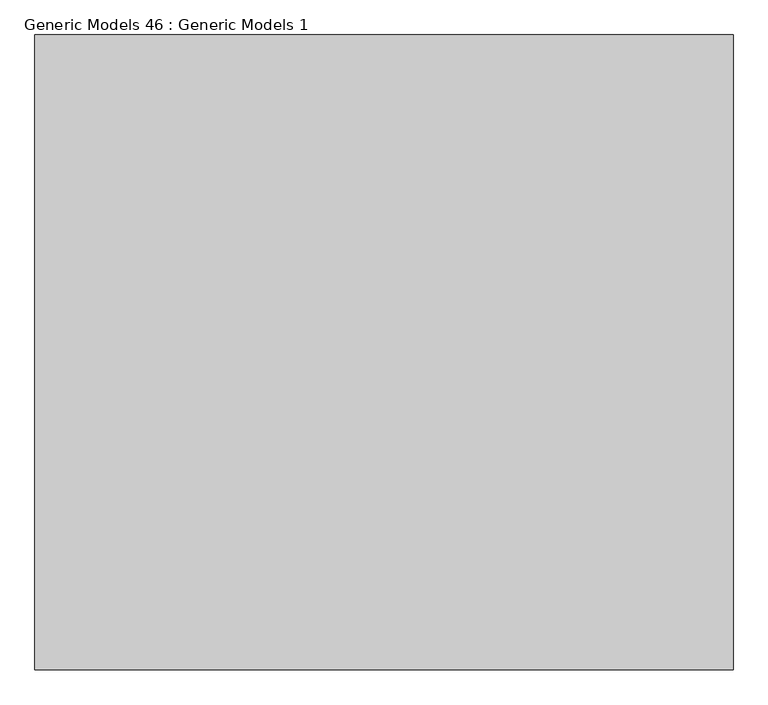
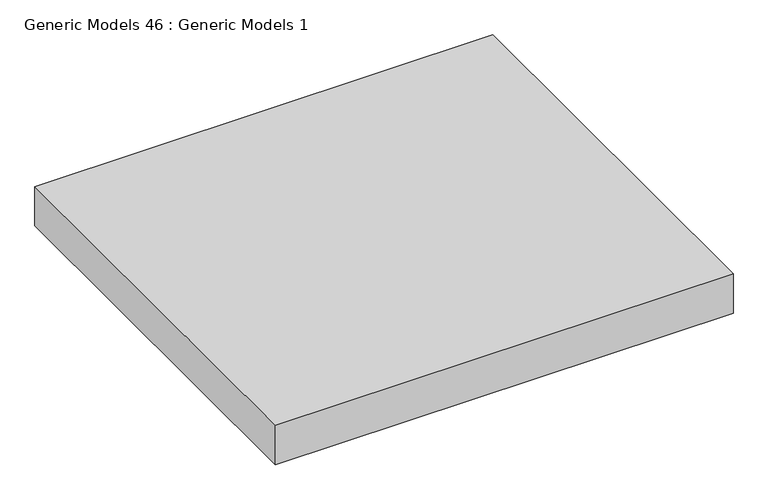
"""IFC4 building model written with IfcOpenShell, lengths in millimetres: proxy geometry, Generic Models 46 : Generic Models 1."""

from ifc_helpers import new_model, si_unit, origin, origin_with_axes, place, context, project, spatial, polyline, outline, extrude, source, transform, mapped, element, save


def generic_models_46_generic_models_1_758e49d4(model_context):
    return source(origin(), model_context, "Body", "SweptSolid", [
        extrude(outline(polyline([(261.2807033, -173.3596473), (261.2807033, 826.6403527), (1361.2807033, 826.6403527), (1361.2807033, -173.3596473), (261.2807033, -173.3596473)])), origin_with_axes(), (0.0, 0.0, 1.0), 100.0),
    ])


if __name__ == "__main__":
    model = new_model("IFC4")
    model_context = context("Model", 3, world=origin())
    ifc_project = project(units=[si_unit("LENGTHUNIT", "METRE", prefix="MILLI")], contexts=[model_context])
    site = spatial("IfcSite", under=ifc_project)
    building = spatial("IfcBuilding", under=site)
    placement = place(None, origin())
    generic_models_46_generic_models_1_shape = generic_models_46_generic_models_1_758e49d4(model_context)
    element("IfcBuildingElementProxy", 1, Name="Generic Models 46 : Generic Models 1", ObjectType="Generic Models 46 : Generic Models 1", at=placement, inside=building, context=model_context, shape_type="MappedRepresentation", body=[
        mapped(generic_models_46_generic_models_1_shape, transform((0.0, 0.0, 0.0), x_axis=(1.0, 0.0, 0.0), y_axis=(0.0, 1.0, 0.0), z_axis=(0.0, 0.0, 1.0))),
    ])
    save(model, "model.ifc")
